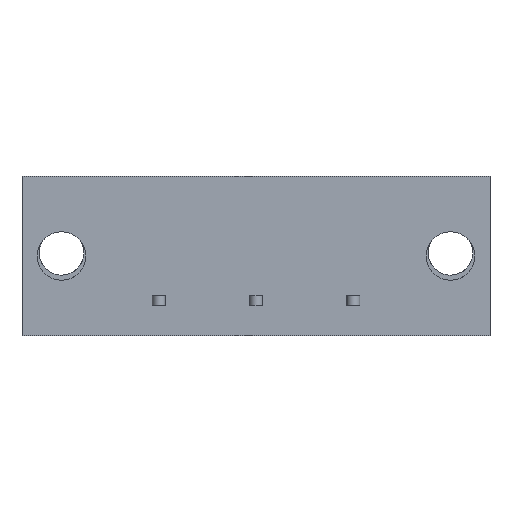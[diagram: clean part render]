
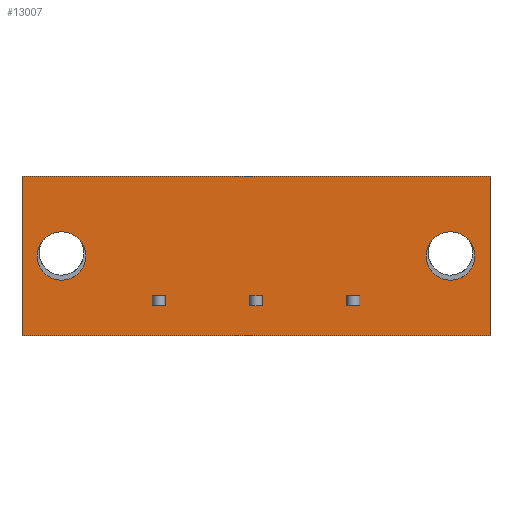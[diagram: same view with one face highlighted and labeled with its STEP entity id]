
A CAD part, front view. The second image highlights one B-rep face of the part: STEP entity #13007.
In plain terms, the highlighted planar face has unit normal (0, -1, 0).
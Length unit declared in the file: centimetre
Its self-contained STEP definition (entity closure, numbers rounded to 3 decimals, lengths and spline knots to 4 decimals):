
#739=PLANE('',#21329);
#1447=VECTOR('',#14082,1.);
#1644=VECTOR('',#14513,1.);
#1650=VECTOR('',#14527,1.);
#1652=VECTOR('',#14530,1.);
#1654=VECTOR('',#14533,1.);
#1665=VECTOR('',#14554,1.);
#1681=VECTOR('',#14573,1.);
#1682=VECTOR('',#14574,1.);
#1683=VECTOR('',#14575,1.);
#1684=VECTOR('',#14576,1.);
#1685=VECTOR('',#14577,1.);
#1686=VECTOR('',#14578,1.);
#1687=VECTOR('',#14579,1.);
#1688=VECTOR('',#14580,1.);
#1689=VECTOR('',#14581,1.);
#1690=VECTOR('',#14582,1.);
#2883=LINE('',#17517,#1447);
#3080=LINE('',#18171,#1644);
#3086=LINE('',#18188,#1650);
#3088=LINE('',#18192,#1652);
#3090=LINE('',#18196,#1654);
#3101=LINE('',#18225,#1665);
#3117=LINE('',#18258,#1681);
#3118=LINE('',#18261,#1682);
#3119=LINE('',#18263,#1683);
#3120=LINE('',#18265,#1684);
#3121=LINE('',#18266,#1685);
#3122=LINE('',#18269,#1686);
#3123=LINE('',#18271,#1687);
#3124=LINE('',#18273,#1688);
#3125=LINE('',#18274,#1689);
#3126=LINE('',#18276,#1690);
#4252=VERTEX_POINT('',#17516);
#4253=VERTEX_POINT('',#17518);
#4256=VERTEX_POINT('',#17526);
#4443=VERTEX_POINT('',#18172);
#4444=VERTEX_POINT('',#18173);
#4449=VERTEX_POINT('',#18189);
#4450=VERTEX_POINT('',#18193);
#4463=VERTEX_POINT('',#18226);
#4477=VERTEX_POINT('',#18257);
#4478=VERTEX_POINT('',#18259);
#4479=VERTEX_POINT('',#18260);
#4480=VERTEX_POINT('',#18262);
#4481=VERTEX_POINT('',#18264);
#4482=VERTEX_POINT('',#18267);
#4483=VERTEX_POINT('',#18268);
#4484=VERTEX_POINT('',#18270);
#4485=VERTEX_POINT('',#18272);
#4486=VERTEX_POINT('',#18275);
#5174=CIRCLE('',#21162,0.19);
#5232=CIRCLE('',#21330,0.19);
#5880=EDGE_CURVE('',#4253,#4252,#2883,.T.);
#5884=EDGE_CURVE('',#4256,#4256,#5174,.T.);
#6166=EDGE_CURVE('',#4443,#4444,#3080,.T.);
#6174=EDGE_CURVE('',#4449,#4443,#3086,.T.);
#6176=EDGE_CURVE('',#4450,#4449,#3088,.T.);
#6178=EDGE_CURVE('',#4444,#4450,#3090,.T.);
#6192=EDGE_CURVE('',#4463,#4252,#3101,.T.);
#6208=EDGE_CURVE('',#4477,#4477,#5232,.T.);
#6209=EDGE_CURVE('',#4478,#4479,#3117,.T.);
#6210=EDGE_CURVE('',#4479,#4480,#3118,.T.);
#6211=EDGE_CURVE('',#4480,#4481,#3119,.T.);
#6212=EDGE_CURVE('',#4481,#4478,#3120,.T.);
#6213=EDGE_CURVE('',#4482,#4483,#3121,.T.);
#6214=EDGE_CURVE('',#4483,#4484,#3122,.T.);
#6215=EDGE_CURVE('',#4484,#4485,#3123,.T.);
#6216=EDGE_CURVE('',#4485,#4482,#3124,.T.);
#6217=EDGE_CURVE('',#4486,#4253,#3125,.T.);
#6218=EDGE_CURVE('',#4463,#4486,#3126,.T.);
#8942=ORIENTED_EDGE('',*,*,#5884,.T.);
#8943=ORIENTED_EDGE('',*,*,#6208,.T.);
#8944=ORIENTED_EDGE('',*,*,#6174,.F.);
#8945=ORIENTED_EDGE('',*,*,#6176,.F.);
#8946=ORIENTED_EDGE('',*,*,#6178,.F.);
#8947=ORIENTED_EDGE('',*,*,#6166,.F.);
#8948=ORIENTED_EDGE('',*,*,#6209,.T.);
#8949=ORIENTED_EDGE('',*,*,#6210,.T.);
#8950=ORIENTED_EDGE('',*,*,#6211,.T.);
#8951=ORIENTED_EDGE('',*,*,#6212,.T.);
#8952=ORIENTED_EDGE('',*,*,#6213,.T.);
#8953=ORIENTED_EDGE('',*,*,#6214,.T.);
#8954=ORIENTED_EDGE('',*,*,#6215,.T.);
#8955=ORIENTED_EDGE('',*,*,#6216,.T.);
#8956=ORIENTED_EDGE('',*,*,#6217,.T.);
#8957=ORIENTED_EDGE('',*,*,#5880,.T.);
#8958=ORIENTED_EDGE('',*,*,#6192,.F.);
#8959=ORIENTED_EDGE('',*,*,#6218,.T.);
#11456=EDGE_LOOP('',(#8942));
#11457=EDGE_LOOP('',(#8943));
#11458=EDGE_LOOP('',(#8944,#8945,#8946,#8947));
#11459=EDGE_LOOP('',(#8948,#8949,#8950,#8951));
#11460=EDGE_LOOP('',(#8952,#8953,#8954,#8955));
#11461=EDGE_LOOP('',(#8956,#8957,#8958,#8959));
#12248=FACE_BOUND('',#11456,.T.);
#12249=FACE_BOUND('',#11457,.T.);
#12250=FACE_BOUND('',#11458,.T.);
#12251=FACE_BOUND('',#11459,.T.);
#12252=FACE_BOUND('',#11460,.T.);
#12253=FACE_BOUND('',#11461,.T.);
#13007=ADVANCED_FACE('',(#12248,#12249,#12250,#12251,#12252,#12253),#739,
 .T.);
#14082=DIRECTION('',(0.,0.,1.));
#14088=DIRECTION('',(0.,1.,0.));
#14089=DIRECTION('',(0.19,0.,0.));
#14513=DIRECTION('',(0.,0.,1.));
#14527=DIRECTION('',(1.,0.,0.));
#14530=DIRECTION('',(0.,0.,-1.));
#14533=DIRECTION('',(-1.,0.,0.));
#14554=DIRECTION('',(1.,0.,0.));
#14570=DIRECTION('',(0.,-1.,0.));
#14571=DIRECTION('',(0.,1.,0.));
#14572=DIRECTION('',(0.19,0.,0.));
#14573=DIRECTION('',(-1.,0.,0.));
#14574=DIRECTION('',(0.,0.,1.));
#14575=DIRECTION('',(1.,0.,0.));
#14576=DIRECTION('',(0.,0.,-1.));
#14577=DIRECTION('',(-1.,0.,0.));
#14578=DIRECTION('',(0.,0.,1.));
#14579=DIRECTION('',(1.,0.,0.));
#14580=DIRECTION('',(0.,0.,-1.));
#14581=DIRECTION('',(1.,0.,0.));
#14582=DIRECTION('',(0.,0.,-1.));
#17516=CARTESIAN_POINT('',(2.286,0.,0.625));
#17517=CARTESIAN_POINT('',(2.286,0.,0.625));
#17518=CARTESIAN_POINT('',(2.286,0.,-0.625));
#17525=CARTESIAN_POINT('',(1.976,0.,0.));
#17526=CARTESIAN_POINT('',(1.786,0.,0.));
#18171=CARTESIAN_POINT('',(-0.26,0.,-0.175));
#18172=CARTESIAN_POINT('',(-0.26,0.,-0.39));
#18173=CARTESIAN_POINT('',(-0.26,0.,-0.31));
#18188=CARTESIAN_POINT('',(-0.465,0.,-0.39));
#18189=CARTESIAN_POINT('',(-0.36,0.,-0.39));
#18192=CARTESIAN_POINT('',(-0.36,0.,-0.175));
#18193=CARTESIAN_POINT('',(-0.36,0.,-0.31));
#18196=CARTESIAN_POINT('',(-0.465,0.,-0.31));
#18225=CARTESIAN_POINT('',(-1.382,0.,0.625));
#18226=CARTESIAN_POINT('',(-1.382,0.,0.625));
#18255=CARTESIAN_POINT('',(0.,0.,0.));
#18256=CARTESIAN_POINT('',(-1.072,0.,0.));
#18257=CARTESIAN_POINT('',(-1.262,0.,0.));
#18258=CARTESIAN_POINT('',(0.607,0.,-0.39));
#18259=CARTESIAN_POINT('',(1.264,0.,-0.39));
#18260=CARTESIAN_POINT('',(1.164,0.,-0.39));
#18261=CARTESIAN_POINT('',(1.164,0.,-0.175));
#18262=CARTESIAN_POINT('',(1.164,0.,-0.31));
#18263=CARTESIAN_POINT('',(0.607,0.,-0.31));
#18264=CARTESIAN_POINT('',(1.264,0.,-0.31));
#18265=CARTESIAN_POINT('',(1.264,0.,-0.175));
#18266=CARTESIAN_POINT('',(0.226,0.,-0.39));
#18267=CARTESIAN_POINT('',(0.502,0.,-0.39));
#18268=CARTESIAN_POINT('',(0.402,0.,-0.39));
#18269=CARTESIAN_POINT('',(0.402,0.,-0.175));
#18270=CARTESIAN_POINT('',(0.402,0.,-0.31));
#18271=CARTESIAN_POINT('',(0.226,0.,-0.31));
#18272=CARTESIAN_POINT('',(0.502,0.,-0.31));
#18273=CARTESIAN_POINT('',(0.502,0.,-0.175));
#18274=CARTESIAN_POINT('',(-1.382,0.,-0.625));
#18275=CARTESIAN_POINT('',(-1.382,0.,-0.625));
#18276=CARTESIAN_POINT('',(-1.382,0.,0.625));
#21162=AXIS2_PLACEMENT_3D('',#17525,#14088,#14089);
#21329=AXIS2_PLACEMENT_3D('',#18255,#14570,$);
#21330=AXIS2_PLACEMENT_3D('',#18256,#14571,#14572);
